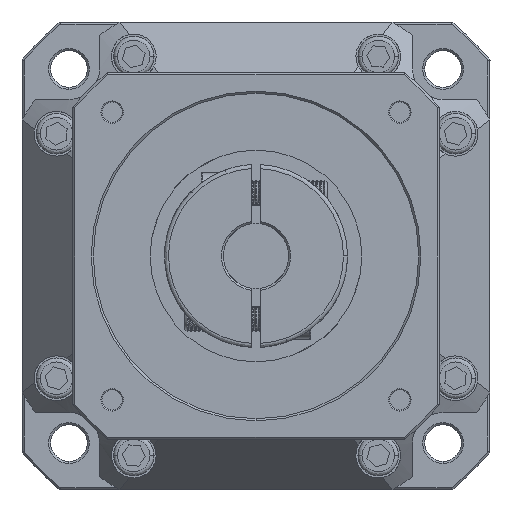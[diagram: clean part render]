
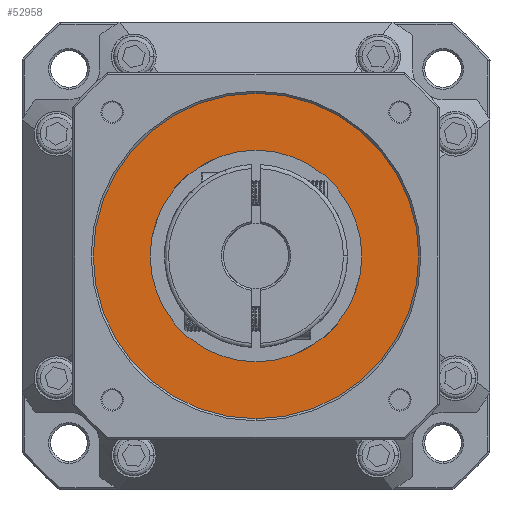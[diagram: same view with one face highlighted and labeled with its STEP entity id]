
A CAD part, front view. The second image highlights one B-rep face of the part: STEP entity #52958.
In plain terms, the highlighted planar face has unit normal (0, 1, 0).
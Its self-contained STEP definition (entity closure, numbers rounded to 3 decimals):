
#315 = CIRCLE ( 'NONE', #29267, 40. ) ;
#506 = DIRECTION ( 'NONE',  ( 1., 0., 0. ) ) ;
#7541 = DIRECTION ( 'NONE',  ( 0., -1., 0. ) ) ;
#13989 = VERTEX_POINT ( 'NONE', #42854 ) ;
#14522 = VERTEX_POINT ( 'NONE', #27658 ) ;
#16285 = CARTESIAN_POINT ( 'NONE',  ( 0., -122.611, -26. ) ) ;
#20643 = ORIENTED_EDGE ( 'NONE', *, *, #59568, .T. ) ;
#24660 = EDGE_CURVE ( 'NONE', #13989, #14522, #82141, .T. ) ;
#25229 = CARTESIAN_POINT ( 'NONE',  ( 0., -122.611, 0. ) ) ;
#27658 = CARTESIAN_POINT ( 'NONE',  ( 0., -122.611, -40. ) ) ;
#29267 = AXIS2_PLACEMENT_3D ( 'NONE', #82811, #36858, #90424 ) ;
#30454 = AXIS2_PLACEMENT_3D ( 'NONE', #53487, #7541, #61225 ) ;
#31756 = DIRECTION ( 'NONE',  ( 0., 1., 0. ) ) ;
#32926 = DIRECTION ( 'NONE',  ( 0., 0., 1. ) ) ;
#36858 = DIRECTION ( 'NONE',  ( 0., 1., 0. ) ) ;
#37629 = VERTEX_POINT ( 'NONE', #96616 ) ;
#42854 = CARTESIAN_POINT ( 'NONE',  ( 0., -122.611, 40. ) ) ;
#46422 = DIRECTION ( 'NONE',  ( 0., -1., 0. ) ) ;
#51232 = FACE_OUTER_BOUND ( 'NONE', #98683, .T. ) ;
#52958 = ADVANCED_FACE ( 'NONE', ( #71631, #51232 ), #61521, .F. ) ;
#53487 = CARTESIAN_POINT ( 'NONE',  ( 0., -122.611, 0. ) ) ;
#53592 = ORIENTED_EDGE ( 'NONE', *, *, #80117, .T. ) ;
#54052 = VERTEX_POINT ( 'NONE', #16285 ) ;
#59568 = EDGE_CURVE ( 'NONE', #54052, #37629, #65174, .T. ) ;
#61225 = DIRECTION ( 'NONE',  ( 0., 0., 1. ) ) ;
#61372 = AXIS2_PLACEMENT_3D ( 'NONE', #25229, #78839, #32926 ) ;
#61521 = PLANE ( 'NONE',  #65459 ) ;
#64746 = ORIENTED_EDGE ( 'NONE', *, *, #24660, .T. ) ;
#65174 = CIRCLE ( 'NONE', #30454, 26. ) ;
#65459 = AXIS2_PLACEMENT_3D ( 'NONE', #92157, #46422, #506 ) ;
#66021 = EDGE_LOOP ( 'NONE', ( #69276, #20643 ) ) ;
#69276 = ORIENTED_EDGE ( 'NONE', *, *, #78113, .T. ) ;
#71631 = FACE_BOUND ( 'NONE', #66021, .T. ) ;
#75938 = AXIS2_PLACEMENT_3D ( 'NONE', #77683, #31756, #85383 ) ;
#77683 = CARTESIAN_POINT ( 'NONE',  ( 0., -122.611, 0. ) ) ;
#78113 = EDGE_CURVE ( 'NONE', #37629, #54052, #95212, .T. ) ;
#78839 = DIRECTION ( 'NONE',  ( 0., -1., 0. ) ) ;
#80117 = EDGE_CURVE ( 'NONE', #14522, #13989, #315, .T. ) ;
#82141 = CIRCLE ( 'NONE', #75938, 40. ) ;
#82811 = CARTESIAN_POINT ( 'NONE',  ( 0., -122.611, 0. ) ) ;
#85383 = DIRECTION ( 'NONE',  ( 0., 0., -1. ) ) ;
#90424 = DIRECTION ( 'NONE',  ( 0., 0., -1. ) ) ;
#92157 = CARTESIAN_POINT ( 'NONE',  ( -40.48, -122.611, -40.48 ) ) ;
#95212 = CIRCLE ( 'NONE', #61372, 26. ) ;
#96616 = CARTESIAN_POINT ( 'NONE',  ( 0., -122.611, 26. ) ) ;
#98683 = EDGE_LOOP ( 'NONE', ( #53592, #64746 ) ) ;
